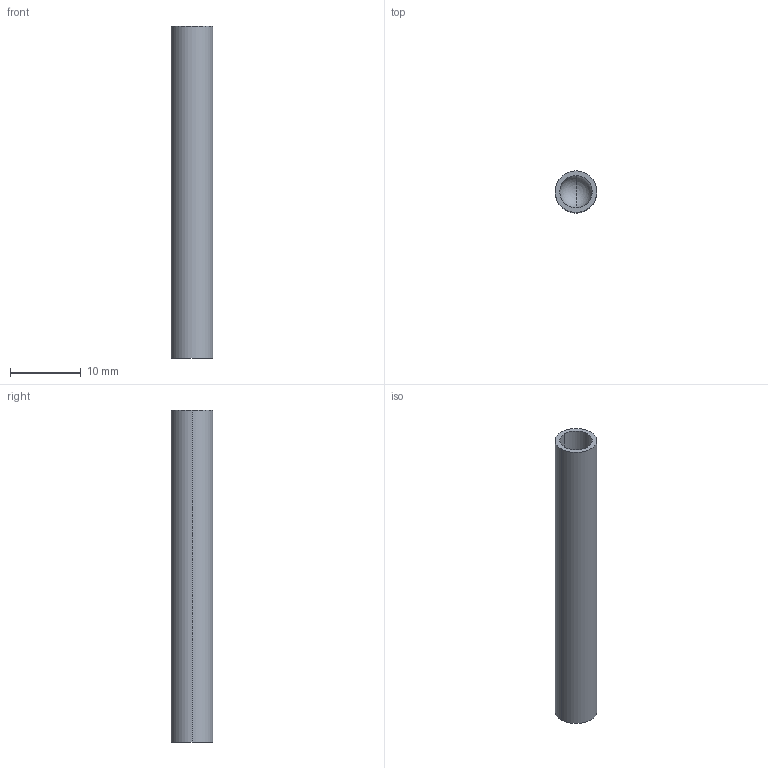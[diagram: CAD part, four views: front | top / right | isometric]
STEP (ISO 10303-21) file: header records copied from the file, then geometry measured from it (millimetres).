
FILE_DESCRIPTION((''),'2;1');
FILE_NAME('10000122865','2010-10-13T',('MEDavids'),('Rockwell Automation'),'PRO/ENGINEER BY PARAMETRIC TECHNOLOGY CORPORATION, 2007390','PRO/ENGINEER BY PARAMETRIC TECHNOLOGY CORPORATION, 2007390','');
FILE_SCHEMA(('CONFIG_CONTROL_DESIGN'));
Length unit declared in the file: millimetre
Products named in the file (1): 10000122865
Bounding box: 5.9 x 5.9 x 47 mm (x, y, z)
Volume: 1111 mm3; surface area: 1066 mm2
Topology: 1 solids, 1 shells, 12 faces, 28 edges, 16 vertices
Faces by surface type: cylinder 6, sphere 4, plane 2
Entity records: 364 total; most frequent: DIRECTION 66, CARTESIAN_POINT 52, ORIENTED_EDGE 48, AXIS2_PLACEMENT_3D 30, EDGE_CURVE 24, CIRCLE 18, VERTEX_POINT 16, EDGE_LOOP 14
